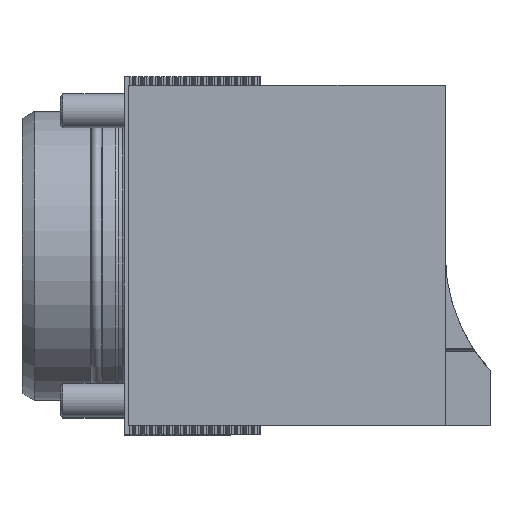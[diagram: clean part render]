
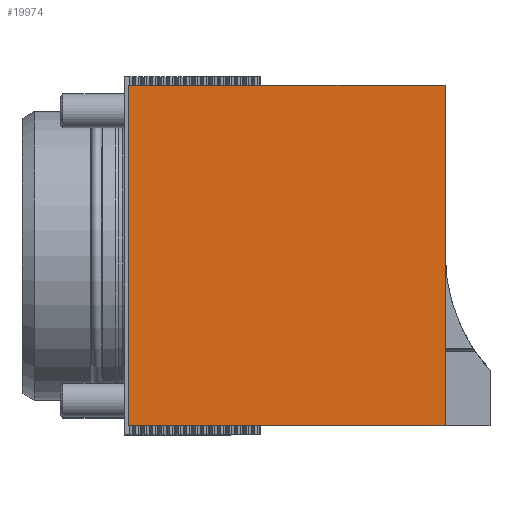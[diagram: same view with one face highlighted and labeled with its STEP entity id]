
A CAD part, top view. The second image highlights one B-rep face of the part: STEP entity #19974.
In plain terms, the highlighted planar face has unit normal (0, 0, 1).
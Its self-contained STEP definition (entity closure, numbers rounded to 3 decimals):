
#5457=VECTOR('',#15079,1.);
#5460=VECTOR('',#15084,1.);
#5463=VECTOR('',#15089,1.);
#5465=VECTOR('',#15093,1.);
#6081=LINE('',#17031,#5457);
#6084=LINE('',#17037,#5460);
#6087=LINE('',#17043,#5463);
#6089=LINE('',#17046,#5465);
#10623=ORIENTED_EDGE('',*,*,#13234,.T.);
#10624=ORIENTED_EDGE('',*,*,#13242,.T.);
#10625=ORIENTED_EDGE('',*,*,#13240,.T.);
#10626=ORIENTED_EDGE('',*,*,#13237,.T.);
#12611=VERTEX_POINT('',#17025);
#12613=VERTEX_POINT('',#17029);
#12615=VERTEX_POINT('',#17034);
#12617=VERTEX_POINT('',#17040);
#13234=EDGE_CURVE('',#12611,#12613,#6081,.T.);
#13237=EDGE_CURVE('',#12615,#12611,#6084,.T.);
#13240=EDGE_CURVE('',#12617,#12615,#6087,.T.);
#13242=EDGE_CURVE('',#12613,#12617,#6089,.T.);
#14137=EDGE_LOOP('',(#10623,#10624,#10625,#10626));
#14595=FACE_BOUND('',#14137,.T.);
#15079=DIRECTION('',(0.,-80.,0.));
#15084=DIRECTION('',(-74.5,0.,0.));
#15089=DIRECTION('',(0.,80.,0.));
#15093=DIRECTION('',(74.5,0.,0.));
#15096=DIRECTION('',(0.,0.,1.));
#15097=DIRECTION('',(0.,-1.,0.));
#17025=CARTESIAN_POINT('',(-172.826,21.214,3.));
#17029=CARTESIAN_POINT('',(-172.826,-58.786,3.));
#17031=CARTESIAN_POINT('',(-172.826,21.214,3.));
#17034=CARTESIAN_POINT('',(-98.326,21.214,3.));
#17037=CARTESIAN_POINT('',(-98.326,21.214,3.));
#17040=CARTESIAN_POINT('',(-98.326,-58.786,3.));
#17043=CARTESIAN_POINT('',(-98.326,-58.786,3.));
#17046=CARTESIAN_POINT('',(-172.826,-58.786,3.));
#17048=CARTESIAN_POINT('',(0.,0.,3.));
#19063=AXIS2_PLACEMENT_3D('',#17048,#15096,#15097);
#19718=PLANE('',#19063);
#19974=ADVANCED_FACE('',(#14595),#19718,.T.);
